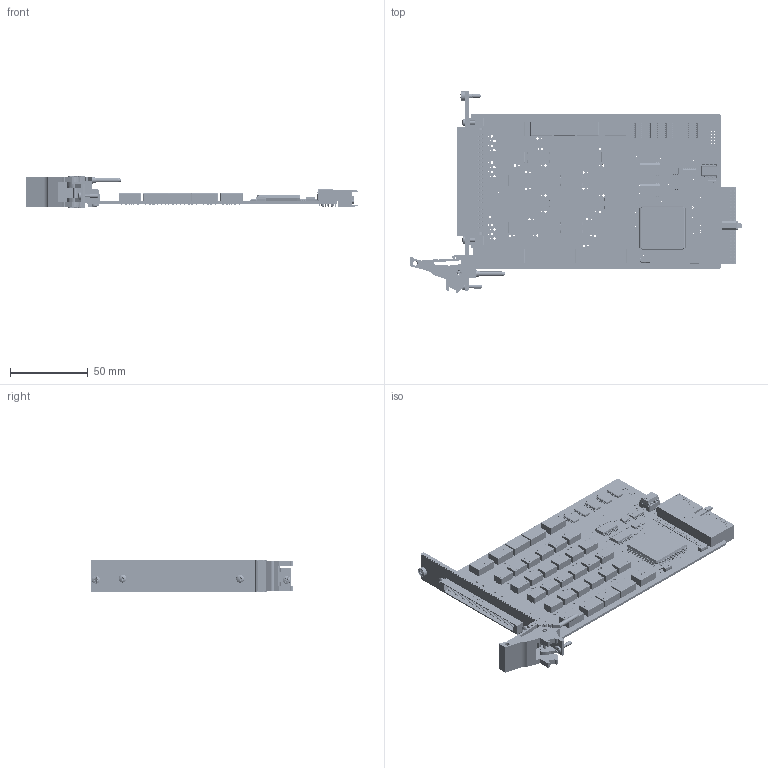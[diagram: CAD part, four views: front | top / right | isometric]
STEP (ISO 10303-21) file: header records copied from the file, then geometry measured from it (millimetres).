
FILE_DESCRIPTION (( 'STEP AP214' ), '1' );
FILE_NAME ('40-792-701 PXI Trib Daisy Chain Switch 75-Ohm 96-Way-.step', '2020-05-15T11:41:39', ( '' ), ( '' ), 'SwSTEP 2.0', 'SolidWorks 2019', '' );
FILE_SCHEMA (( 'AUTOMOTIVE_DESIGN' ));
Length unit declared in the file: millimetre
Products named in the file (37): C-BP-015 PXI 3U x 1 Slot Blank Panel; C-FP-163 PXI 3U 1-Slot 96-Way Connector; A-FP-163 FP + Label Assy; C-CN-355 Compact pci connector 3; C-RL-150 AGQ2004H DPCO Relay; C-IC-056 IC TL7705ACD SMT_No Text; C-IC-090 IC M 93C56_No Text; C-CP-034; A-PC-283 8 TRIB DAISY CHAIN SWITCH; L-FX-165 PXI Handle Label; A-FP-163-L1 FP Full Assy; C-IC-100 IC 74HCT273 SMD_Without Pckage Description; C-FX-101 Screw, M2.5 x 6, Pan Hd, Pozi, Steel, BZP_ISO 7045 - M2.5 x 6 - Z --- 6N; C-RS-079 Res N-W 4x10K 1206 CRA3A4E10K; C-FX-165 Handle Pin; C-IC-080 IC Relay Driver HEF4794BT_Without Package Description; L-FP-163 PXI 3U 1 Slot 96 Way FP Label Assy; A-PC-283-# 8 TRIB DAISY CHAIN SWITCH; C-FX-165 Handle Body; C-BK-026 Bush Front Panel Mounting; C-PC-283 8 TRIB DAISY CHAIN SWITCH; C-FX-165 Handle Finger; C-CP-160 Cap 10uF 16V Tant Smt (C.CASE); C-CN-035 SOCKET IC 8 WAY DIL low profil_Vìchoz¡; P-FX-017 M2,5 Collar Posi-Slot Screw; C-CN-379 96 Way Connector.Part; C-IC-087 IC 74HCT32D Logic IC Smt_No Text; C-RL-088 TQ2-5V Relay; 40-792-701 PXI Trib Daisy Chain Switch 75-Ohm 96-Way-; C-FX-165 CPCI Ejector Handle; C-RS-102 RES 4x10R 1206 1-16W 5% 200PPM; L-FP-163-# PXI 3U 1 Slot 96 Way FP Label; C-IC-101 IC 74HCT244 SMD; C-IC-099 DIP8 Package_No Text; C-RS-147 Res 100R 0603 1-16W 1% 100PPM; Z-FX-2001 FP Fixing - Bush + Screw; C-IC-219 PLX PCI9052
Assembly tree (112 placements, depth 5):
  40-792-701 PXI Trib Daisy Chain Switch 75-Ohm 96-Way-
    A-PC-283 8 TRIB DAISY CHAIN SWITCH
      A-PC-283-# 8 TRIB DAISY CHAIN SWITCH
        C-PC-283 8 TRIB DAISY CHAIN SWITCH
        C-RL-088 TQ2-5V Relay  x10
        C-RL-150 AGQ2004H DPCO Relay  x24
        C-CP-034  x21
        C-CP-160 Cap 10uF 16V Tant Smt (C.CASE)  x3
        C-RS-079 Res N-W 4x10K 1206 CRA3A4E10K  x2
        C-RS-102 RES 4x10R 1206 1-16W 5% 200PPM  x12
        C-IC-219 PLX PCI9052
        C-IC-056 IC TL7705ACD SMT_No Text
        C-IC-087 IC 74HCT32D Logic IC Smt_No Text
        C-IC-100 IC 74HCT273 SMD_Without Pckage Description
        C-IC-101 IC 74HCT244 SMD
        C-IC-090 IC M 93C56_No Text
        C-IC-080 IC Relay Driver HEF4794BT_Without Package Description  x5
        C-RS-147 Res 100R 0603 1-16W 1% 100PPM
        C-CN-355 Compact pci connector 3
        C-IC-099 DIP8 Package_No Text
        C-CN-035 SOCKET IC 8 WAY DIL low profil_Vìchoz¡
    A-FP-163-L1 FP Full Assy
      A-FP-163 FP + Label Assy
        C-FP-163 PXI 3U 1-Slot 96-Way Connector
          C-BP-015 PXI 3U x 1 Slot Blank Panel
        L-FP-163 PXI 3U 1 Slot 96 Way FP Label Assy
          L-FP-163-# PXI 3U 1 Slot 96 Way FP Label
      C-FX-165 CPCI Ejector Handle
        C-FX-165 Handle Body
        C-FX-165 Handle Finger
        C-FX-165 Handle Pin
        P-FX-017 M2,5 Collar Posi-Slot Screw
        L-FX-165 PXI Handle Label
      Z-FX-2001 FP Fixing - Bush + Screw
        C-BK-026 Bush Front Panel Mounting
        P-FX-017 M2,5 Collar Posi-Slot Screw
      C-FX-101 Screw, M2.5 x 6, Pan Hd, Pozi, Steel, BZP_ISO 7045 - M2.5 x 6 - Z --- 6N
    C-CN-379 96 Way Connector.Part
    C-FX-101 Screw, M2.5 x 6, Pan Hd, Pozi, Steel, BZP_ISO 7045 - M2.5 x 6 - Z --- 6N  x5
Bounding box: 213.7 x 129.63 x 20 mm (x, y, z)
Volume: 64078.1 mm3; surface area: 90250.9 mm2
Topology: 108 solids, 254 shells, 17591 faces, 47150 edges, 30535 vertices
Faces by surface type: plane 11185, cylinder 4690, bspline 1014, cone 386, torus 206, sphere 110
Entity records: 438596 total; most frequent: CARTESIAN_POINT 78277, ORIENTED_EDGE 56328, DIRECTION 55720, EDGE_CURVE 28732, VECTOR 20652, LINE 20652, VERTEX_POINT 18779, AXIS2_PLACEMENT_3D 17534
